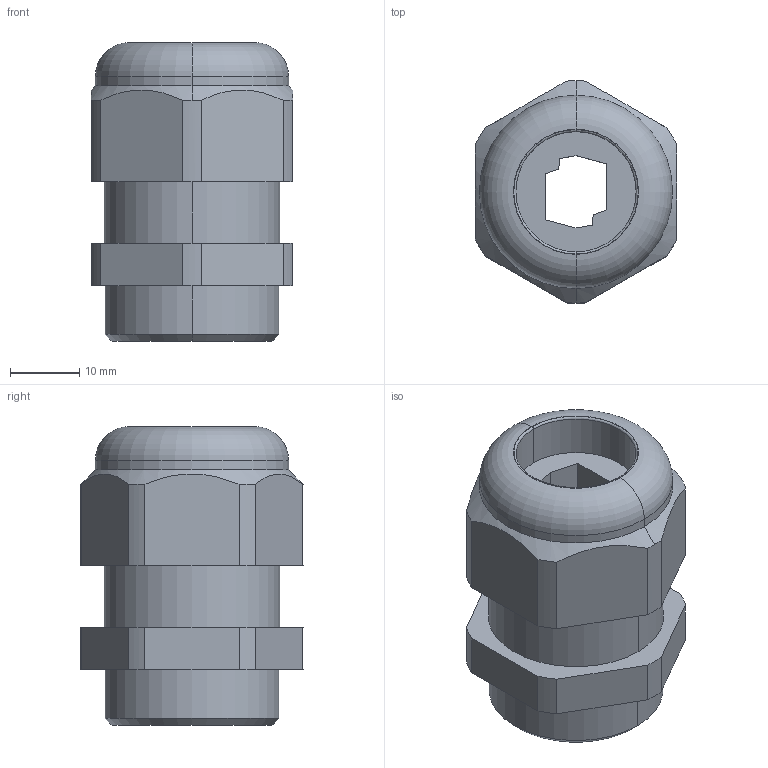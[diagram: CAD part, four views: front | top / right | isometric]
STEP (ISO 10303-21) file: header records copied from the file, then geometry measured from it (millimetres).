
FILE_DESCRIPTION (( 'STEP AP203' ), '1' );
FILE_NAME ('50.625PA7001ASI2.STEP', '2006-04-20T12:43:10', ( ' ' ), ( '' ), 'SwSTEP 2.0', 'SolidWorks 2005278', '' );
FILE_SCHEMA (( 'CONFIG_CONTROL_DESIGN' ));
Length unit declared in the file: millimetre
Products named in the file (1): 50.625PA7001ASI2
Bounding box: 29 x 32 x 43 mm (x, y, z)
Volume: 16867.2 mm3; surface area: 7416.1 mm2
Topology: 1 solids, 1 shells, 103 faces, 265 edges, 173 vertices
Faces by surface type: plane 67, cylinder 26, torus 6, cone 4
Entity records: 3269 total; most frequent: CARTESIAN_POINT 624, DIRECTION 534, ORIENTED_EDGE 530, EDGE_CURVE 265, VECTOR 192, LINE 192, VERTEX_POINT 173, AXIS2_PLACEMENT_3D 171
